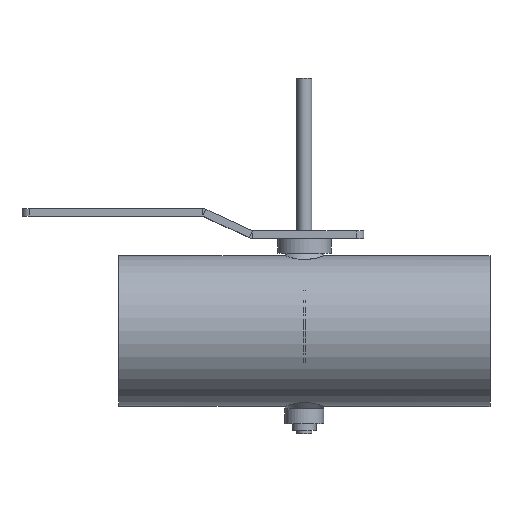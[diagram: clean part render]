
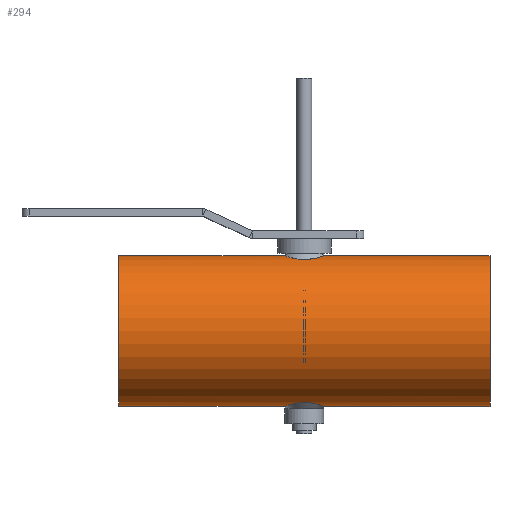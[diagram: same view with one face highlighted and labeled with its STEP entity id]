
A CAD part, top view. The second image highlights one B-rep face of the part: STEP entity #294.
In plain terms, the highlighted cylindrical face has radius 50.8 mm (diameter 101.6 mm), a full revolution.
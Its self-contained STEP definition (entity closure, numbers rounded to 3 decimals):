
#233=B_SPLINE_CURVE_WITH_KNOTS('',3,(#1692,#1693,#1694,#1695,#1696,#1697,
#1698,#1699,#1700,#1701,#1702,#1703,#1704,#1705,#1706,#1707,#1708,#1709,
#1710,#1711,#1712,#1713,#1714,#1715),.UNSPECIFIED.,.T.,.F.,(2,2,2,2,2,2,
2,2,2,2,2,2,2,2),(-0.063,0.,0.063,0.125,0.25,0.375,
0.438,0.5,0.625,0.75,0.875,0.938,1.,1.063),.UNSPECIFIED.);
#234=B_SPLINE_CURVE_WITH_KNOTS('',3,(#1717,#1718,#1719,#1720,#1721,#1722,
#1723,#1724,#1725,#1726,#1727,#1728,#1729,#1730,#1731,#1732,#1733,#1734,
#1735,#1736,#1737,#1738,#1739,#1740,#1741,#1742),.UNSPECIFIED.,.T.,.F.,(2,
2,2,2,2,2,2,2,2,2,2,2,2,2,2),(-0.062,0.,0.063,
0.125,0.25,0.375,0.438,0.5,
0.563,0.625,0.75,0.875,0.938,1.,1.063),.UNSPECIFIED.);
#260=CYLINDRICAL_SURFACE('',#1202,50.8);
#294=ADVANCED_FACE('',(#423,#424,#425,#426),#260,.T.);
#423=FACE_BOUND('',#533,.T.);
#424=FACE_BOUND('',#534,.T.);
#425=FACE_BOUND('',#535,.T.);
#426=FACE_BOUND('',#536,.T.);
#533=EDGE_LOOP('',(#673));
#534=EDGE_LOOP('',(#674));
#535=EDGE_LOOP('',(#675));
#536=EDGE_LOOP('',(#676));
#673=ORIENTED_EDGE('',*,*,#1005,.T.);
#674=ORIENTED_EDGE('',*,*,#1006,.T.);
#675=ORIENTED_EDGE('',*,*,#1001,.T.);
#676=ORIENTED_EDGE('',*,*,#1003,.T.);
#907=VERTEX_POINT('',#1683);
#909=VERTEX_POINT('',#1688);
#911=VERTEX_POINT('',#1716);
#912=VERTEX_POINT('',#1743);
#1001=EDGE_CURVE('',#907,#907,#1123,.T.);
#1003=EDGE_CURVE('',#909,#909,#1125,.T.);
#1005=EDGE_CURVE('',#911,#911,#233,.T.);
#1006=EDGE_CURVE('',#912,#912,#234,.T.);
#1123=CIRCLE('',#1196,50.8);
#1125=CIRCLE('',#1199,50.8);
#1196=AXIS2_PLACEMENT_3D('',#1682,#1353,#1354);
#1199=AXIS2_PLACEMENT_3D('',#1687,#1359,#1360);
#1202=AXIS2_PLACEMENT_3D('',#1744,#1365,#1366);
#1353=DIRECTION('',(-1.,0.,0.));
#1354=DIRECTION('',(0.,0.,1.));
#1359=DIRECTION('',(1.,0.,0.));
#1360=DIRECTION('',(0.,0.,-1.));
#1365=DIRECTION('',(1.,0.,0.));
#1366=DIRECTION('',(0.,0.,-1.));
#1682=CARTESIAN_POINT('',(125.,-8.3,125.));
#1683=CARTESIAN_POINT('',(125.,-8.3,175.8));
#1687=CARTESIAN_POINT('',(-125.,-8.3,125.));
#1688=CARTESIAN_POINT('',(-125.,-8.3,74.2));
#1692=CARTESIAN_POINT('',(-0.641,-56.186,108.034));
#1693=CARTESIAN_POINT('',(-4.642,-56.512,108.986));
#1694=CARTESIAN_POINT('',(-6.468,-56.847,109.98));
#1695=CARTESIAN_POINT('',(-9.553,-57.571,112.56));
#1696=CARTESIAN_POINT('',(-10.827,-57.959,114.145));
#1697=CARTESIAN_POINT('',(-13.777,-58.917,119.411));
#1698=CARTESIAN_POINT('',(-14.546,-59.241,123.656));
#1699=CARTESIAN_POINT('',(-13.401,-58.819,131.681));
#1700=CARTESIAN_POINT('',(-11.513,-58.078,135.52));
#1701=CARTESIAN_POINT('',(-7.107,-56.98,139.59));
#1702=CARTESIAN_POINT('',(-5.35,-56.624,140.679));
#1703=CARTESIAN_POINT('',(-1.462,-56.217,141.883));
#1704=CARTESIAN_POINT('',(0.658,-56.187,141.964));
#1705=CARTESIAN_POINT('',(6.633,-56.676,140.537));
#1706=CARTESIAN_POINT('',(9.833,-57.636,137.623));
#1707=CARTESIAN_POINT('',(13.773,-58.916,130.604));
#1708=CARTESIAN_POINT('',(14.545,-59.241,126.368));
#1709=CARTESIAN_POINT('',(13.406,-58.821,118.329));
#1710=CARTESIAN_POINT('',(11.52,-58.081,114.494));
#1711=CARTESIAN_POINT('',(7.126,-56.984,110.424));
#1712=CARTESIAN_POINT('',(5.371,-56.627,109.329));
#1713=CARTESIAN_POINT('',(1.456,-56.216,108.114));
#1714=CARTESIAN_POINT('',(-0.641,-56.186,108.034));
#1715=CARTESIAN_POINT('',(-4.642,-56.512,108.986));
#1716=CARTESIAN_POINT('',(-2.641,-56.349,108.51));
#1717=CARTESIAN_POINT('',(-4.643,39.912,108.986));
#1718=CARTESIAN_POINT('',(-0.639,39.586,108.033));
#1719=CARTESIAN_POINT('',(1.467,39.617,108.117));
#1720=CARTESIAN_POINT('',(5.359,40.025,109.325));
#1721=CARTESIAN_POINT('',(7.129,40.385,110.426));
#1722=CARTESIAN_POINT('',(11.529,41.484,114.504));
#1723=CARTESIAN_POINT('',(13.415,42.224,118.36));
#1724=CARTESIAN_POINT('',(14.542,42.64,126.377));
#1725=CARTESIAN_POINT('',(13.758,42.311,130.637));
#1726=CARTESIAN_POINT('',(10.814,41.355,135.871));
#1727=CARTESIAN_POINT('',(9.527,40.964,137.467));
#1728=CARTESIAN_POINT('',(6.453,40.245,140.028));
#1729=CARTESIAN_POINT('',(4.6,39.908,141.028));
#1730=CARTESIAN_POINT('',(0.649,39.587,141.961));
#1731=CARTESIAN_POINT('',(-1.48,39.617,141.881));
#1732=CARTESIAN_POINT('',(-5.371,40.027,140.669));
#1733=CARTESIAN_POINT('',(-7.124,40.384,139.578));
#1734=CARTESIAN_POINT('',(-11.526,41.483,135.5));
#1735=CARTESIAN_POINT('',(-13.409,42.222,131.678));
#1736=CARTESIAN_POINT('',(-14.548,42.642,123.589));
#1737=CARTESIAN_POINT('',(-13.777,42.317,119.4));
#1738=CARTESIAN_POINT('',(-10.809,41.353,114.119));
#1739=CARTESIAN_POINT('',(-9.548,40.97,112.554));
#1740=CARTESIAN_POINT('',(-6.46,40.246,109.975));
#1741=CARTESIAN_POINT('',(-4.643,39.912,108.986));
#1742=CARTESIAN_POINT('',(-0.639,39.586,108.033));
#1743=CARTESIAN_POINT('',(-2.641,39.749,108.51));
#1744=CARTESIAN_POINT('',(-125.,-8.3,125.));
